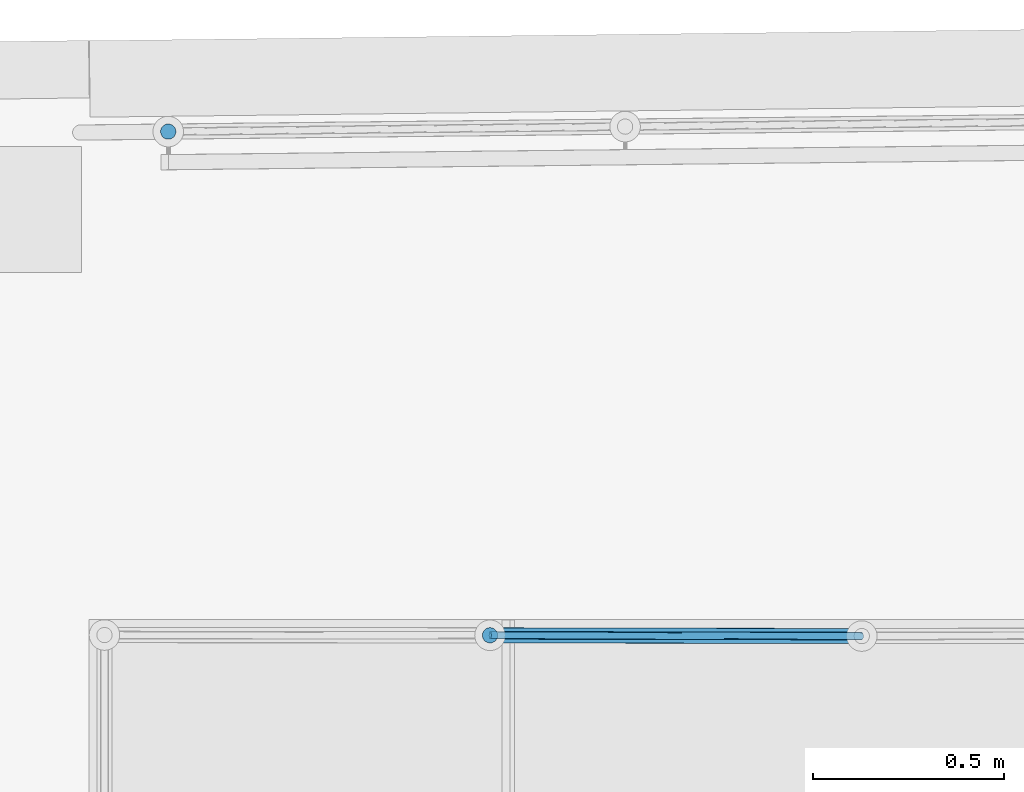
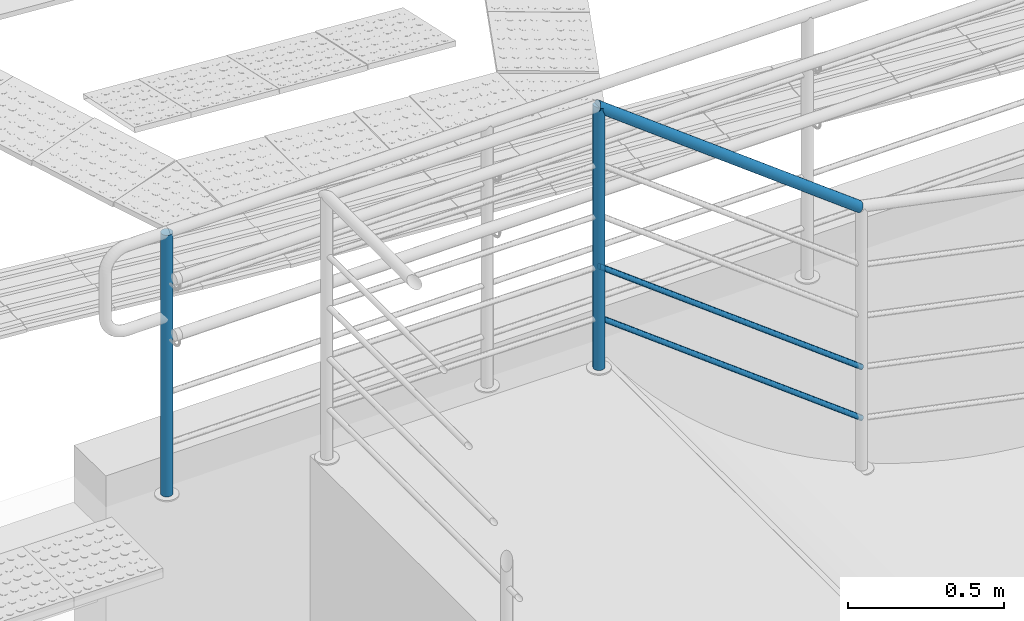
# One storey, part 33 of 237: 6 building element parts, 2 elements without a shape of their own.
"""IFC2X3 building model written with IfcOpenShell, lengths in millimetres."""

import ifcopenshell
import ifcopenshell.guid

model = None  # the IFC model being written
_history = None  # IfcOwnerHistory: only IFC2X3 demands one
_inside = {}  # id of a spatial element -> (the spatial element, [elements in it])
_under = {}  # id of a project, library or spatial element -> (it, [spatial elements below it])
_declared = {}  # id of a project -> (the project, [libraries it declares])
_typed = {}  # id of a type object -> (the type object, [elements of that type])
_made_of = {}  # id of a material, layer set ... -> (it, [elements and type objects made of it])


def new_model(schema):
    """Start an empty IFC model of exactly this schema.

    Asked for "IFC4X3", IfcOpenShell would pick the latest addendum, in which some entities
    have other attributes; the version numbers below select the first issue.
    IFC2X3 requires an IfcOwnerHistory on every rooted entity: one is made here for all.
    """
    global model, _history
    if schema == "IFC4X3":
        model = ifcopenshell.file(schema_version=(4, 3, 0, 0))
    else:
        model = ifcopenshell.file(schema=schema)
    _inside.clear()
    _under.clear()
    _declared.clear()
    _typed.clear()
    _made_of.clear()
    _history = None
    if model.schema == "IFC2X3":
        org = make("IfcOrganization", Name="unknown")
        user = make(
            "IfcPersonAndOrganization",
            ThePerson=make("IfcPerson", FamilyName="unknown"),
            TheOrganization=org,
        )
        app = make(
            "IfcApplication",
            ApplicationDeveloper=org,
            Version="unknown",
            ApplicationFullName="unknown",
            ApplicationIdentifier="unknown",
        )
        _history = make(
            "IfcOwnerHistory",
            OwningUser=user,
            OwningApplication=app,
            ChangeAction="ADDED",
            CreationDate=0,
        )
    return model


def make(cls, **values):
    """One entity of the class cls with the attributes given. An attribute that is None is left unset."""
    return model.create_entity(
        cls, **{name: value for name, value in values.items() if value is not None}
    )


def entity(cls, *values):
    """Any entity or typed value of the class cls, its attributes in the order of the schema. None: left unset."""
    e = model.create_entity(cls)
    for i, value in enumerate(values):
        if value is not None:
            e[i] = value
    return e


def rooted(cls, **values):
    """An entity with a GlobalId (a new one), such as an element, a storey or a relation."""
    return make(cls, GlobalId=ifcopenshell.guid.new(), OwnerHistory=_history, **values)


def si_unit(unit_type, name, prefix=None):
    """IfcSIUnit, for example si_unit("LENGTHUNIT", "METRE", prefix="MILLI")."""
    return make("IfcSIUnit", UnitType=unit_type, Prefix=prefix, Name=name)


def converted_unit(unit_type, name, factor, base, dimensions=None, offset=None):
    """IfcConversionBasedUnit, such as the inch: factor (a typed value) times the base unit."""
    return make(
        "IfcConversionBasedUnit"
        if offset is None
        else "IfcConversionBasedUnitWithOffset",
        ConversionOffset=offset,
        Dimensions=None
        if dimensions is None
        else entity("IfcDimensionalExponents", *dimensions),
        UnitType=unit_type,
        Name=name,
        ConversionFactor=make(
            "IfcMeasureWithUnit", ValueComponent=factor, UnitComponent=base
        ),
    )


def derived_unit(unit_type, elements):
    """IfcDerivedUnit: a product of units, each with its exponent."""
    return make(
        "IfcDerivedUnit",
        Elements=[
            make("IfcDerivedUnitElement", Unit=unit, Exponent=power)
            for unit, power in elements
        ],
        UnitType=unit_type,
    )


def money_unit(currency):
    """IfcMonetaryUnit."""
    return make("IfcMonetaryUnit", Currency=currency)


def assignment(units):
    """IfcUnitAssignment: the units of a project."""
    return None if units is None else make("IfcUnitAssignment", Units=units)


def point(xyz):
    """IfcCartesianPoint."""
    return None if xyz is None else make("IfcCartesianPoint", Coordinates=xyz)


def direction(xyz):
    """IfcDirection."""
    return None if xyz is None else make("IfcDirection", DirectionRatios=xyz)


def frame(location, z_axis=None, x_axis=None):
    """IfcAxis2Placement3D, a coordinate frame: its origin and axes. An axis left out is left unset."""
    return make(
        "IfcAxis2Placement3D",
        Location=point(location),
        Axis=direction(z_axis),
        RefDirection=direction(x_axis),
    )


def origin_with_axes():
    """The frame at (0, 0, 0) with the z axis (0, 0, 1) and the x axis (1, 0, 0) written out."""
    return frame((0.0, 0.0, 0.0), z_axis=(0.0, 0.0, 1.0), x_axis=(1.0, 0.0, 0.0))


def place(relative_to, where):
    """IfcLocalPlacement: puts the frame where relative to a parent placement (None: the world)."""
    return make(
        "IfcLocalPlacement", PlacementRelTo=relative_to, RelativePlacement=where
    )


def context(
    kind, dimensions, precision=None, world=None, true_north=None, identifier=None
):
    """IfcGeometricRepresentationContext, for example the 3D "Model" context."""
    return make(
        "IfcGeometricRepresentationContext",
        ContextIdentifier=identifier,
        ContextType=kind,
        CoordinateSpaceDimension=dimensions,
        Precision=precision,
        WorldCoordinateSystem=world,
        TrueNorth=true_north,
    )


def subcontext(parent, identifier, kind, view, scale=None):
    """IfcGeometricRepresentationSubContext, for example "Body" below "Model"."""
    return make(
        "IfcGeometricRepresentationSubContext",
        ContextIdentifier=identifier,
        ContextType=kind,
        ParentContext=parent,
        TargetScale=scale,
        TargetView=view,
    )


def project(units=None, contexts=None):
    """IfcProject with its units and contexts."""
    return rooted(
        "IfcProject",
        Name="project",
        RepresentationContexts=contexts,
        UnitsInContext=assignment(units),
    )


def spatial(cls, under=None, at=None, **own):
    """A site, building, storey or space (cls), placed at a placement, below another one or the project."""
    s = rooted(cls, ObjectPlacement=at, **own)
    if under is not None:
        _under.setdefault(under.id(), (under, []))[1].append(s)
    return s


def faces_of(points, faces, orient=None, outer=None):
    """IfcFace entities. A face is a list of loops; a loop is a list of indices into points, from 0.

    orient and outer hold one flag for each loop. By default every Orientation is true, the
    first loop of a face is its IfcFaceOuterBound and the others are IfcFaceBound.
    """
    made = []
    for i, loops in enumerate(faces):
        bounds = []
        for j, loop in enumerate(loops):
            is_outer = j == 0 if outer is None else outer[i][j]
            bounds.append(
                make(
                    "IfcFaceOuterBound" if is_outer else "IfcFaceBound",
                    Bound=make("IfcPolyLoop", Polygon=[points[k] for k in loop]),
                    Orientation=True if orient is None else orient[i][j],
                )
            )
        made.append(make("IfcFace", Bounds=bounds))
    return made


def faceted_brep(points, faces, orient=None, outer=None, voids=None):
    """IfcFacetedBrep: a solid bounded by flat faces; with voids (closed shells), ...WithVoids."""
    shared = [point(p) for p in points]
    hull = make("IfcClosedShell", CfsFaces=faces_of(shared, faces, orient, outer))
    if voids is None:
        return make("IfcFacetedBrep", Outer=hull)
    return make(
        "IfcFacetedBrepWithVoids",
        Outer=hull,
        Voids=[
            make(cls, CfsFaces=faces_of(shared, fs, o, b)) for cls, fs, o, b in voids
        ],
    )


def shape(context_of_items, identifier, shape_type, items):
    """IfcShapeRepresentation: the items that make up one representation, for example the "Body"."""
    return make(
        "IfcShapeRepresentation",
        ContextOfItems=context_of_items,
        RepresentationIdentifier=identifier,
        RepresentationType=shape_type,
        Items=items,
    )


def material(Name=None, Category=None):
    """IfcMaterial."""
    return make("IfcMaterial", Name=Name, Category=Category)


def made_of(thing, what):
    """Note that an element or type object is made of a material, layer set ...; save() writes the relation."""
    if what is not None:
        _made_of.setdefault(what.id(), (what, []))[1].append(thing)
    return thing


def type_object(cls, material=None, **own):
    """A type object (cls), such as IfcWallType, which elements share."""
    return made_of(rooted(cls, **own), material)


def element(
    cls,
    number,
    at=None,
    inside=None,
    cuts=None,
    type_object=None,
    material=None,
    context=None,
    identifier="Body",
    shape_type=None,
    held_by="IfcProductDefinitionShape",
    body=None,
    shapes=None,
    **own,
):
    """One element of the class cls, such as IfcWall. Its Tag is "e" and its number.

    at: its placement. inside: the storey or other place that contains it. cuts: it is an
    opening in that element (IfcRelVoidsElement). A single representation is given by context,
    identifier, shape_type and body (its items); several are given by shapes. held_by: the class
    of the entity that holds the representations. save() writes the other relations.
    """
    e = rooted(cls, Tag="e%d" % number, ObjectPlacement=at, **own)
    if body is not None:
        shapes = [shape(context, identifier, shape_type, body)]
    if shapes is not None:
        e.Representation = make(held_by, Representations=shapes)
    if inside is not None:
        _inside.setdefault(inside.id(), (inside, []))[1].append(e)
    if cuts is not None:
        rooted(
            "IfcRelVoidsElement", RelatingBuildingElement=cuts, RelatedOpeningElement=e
        )
    if type_object is not None:
        _typed.setdefault(type_object.id(), (type_object, []))[1].append(e)
    return made_of(e, material)


def aggregate(whole, parts):
    """IfcRelAggregates: a whole, such as a stair, and the parts it consists of."""
    return rooted("IfcRelAggregates", RelatingObject=whole, RelatedObjects=parts)


def save(model, path):
    """Write the relations noted so far, then the file.

    IfcRelAggregates (storeys below a building ...), IfcRelContainedInSpatialStructure (elements
    in a storey), IfcRelDefinesByType, IfcRelAssociatesMaterial and IfcRelDeclares: one each for
    every whole, place, type object, material and project.
    """
    for whole, parts in _under.values():
        aggregate(whole, parts)
    for where, things in _inside.values():
        rooted(
            "IfcRelContainedInSpatialStructure",
            RelatedElements=things,
            RelatingStructure=where,
        )
    for kind, things in _typed.values():
        rooted("IfcRelDefinesByType", RelatedObjects=things, RelatingType=kind)
    for what, things in _made_of.values():
        rooted("IfcRelAssociatesMaterial", RelatedObjects=things, RelatingMaterial=what)
    for by, libraries in _declared.values():
        rooted("IfcRelDeclares", RelatingContext=by, RelatedDefinitions=libraries)
    model.write(path)


model = new_model("IFC2X3")

# Units and contexts
model_context = context("Model", 3, precision=0.01, world=origin_with_axes(), true_north=direction((0.0, 1.0)))
body_context = subcontext(model_context, "Body", "Model", "MODEL_VIEW")
ifc_project = project(units=[si_unit("LENGTHUNIT", "METRE", prefix="MILLI"), si_unit("AREAUNIT", "SQUARE_METRE"), si_unit("VOLUMEUNIT", "CUBIC_METRE"), converted_unit("PLANEANGLEUNIT", "DEGREE", entity("IfcPlaneAngleMeasure", 0.0174532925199), si_unit("PLANEANGLEUNIT", "RADIAN"), dimensions=[0, 0, 0, 0, 0, 0, 0]), money_unit("USD"), converted_unit("TIMEUNIT", "Year", entity("IfcTimeMeasure", 31556926.0), si_unit("TIMEUNIT", "SECOND"), dimensions=[0, 0, 1, 0, 0, 0, 0]), si_unit("MASSUNIT", "GRAM", prefix="KILO"), si_unit("THERMODYNAMICTEMPERATUREUNIT", "DEGREE_CELSIUS"), si_unit("LUMINOUSINTENSITYUNIT", "LUMEN"), si_unit("ENERGYUNIT", "JOULE", prefix="MEGA"), derived_unit("THERMALCONDUCTANCEUNIT", [(si_unit("POWERUNIT", "WATT"), 1), (si_unit("LENGTHUNIT", "METRE"), -1), (si_unit("THERMODYNAMICTEMPERATUREUNIT", "KELVIN"), -1)]), derived_unit("SPECIFICHEATCAPACITYUNIT", [(si_unit("ENERGYUNIT", "JOULE"), 1), (si_unit("MASSUNIT", "GRAM", prefix="KILO"), -1), (si_unit("THERMODYNAMICTEMPERATUREUNIT", "KELVIN"), -1)]), derived_unit("MASSDENSITYUNIT", [(si_unit("MASSUNIT", "GRAM", prefix="KILO"), 1), (si_unit("VOLUMEUNIT", "CUBIC_METRE"), -1)])], contexts=[model_context])

# Site, building, storey
site_placement = place(None, origin_with_axes())
site = spatial("IfcSite", under=ifc_project, at=site_placement, Name="Local", CompositionType="ELEMENT")
building_placement = place(site_placement, origin_with_axes())
building = spatial("IfcBuilding", under=site, at=building_placement, Name="Construção", CompositionType="ELEMENT")
storey_placement = place(building_placement, origin_with_axes())
storey = spatial("IfcBuildingStorey", under=building, at=storey_placement, Name="Pavimento Térreo", CompositionType="ELEMENT", Elevation=0.0)

# Railing, building element part
railing_type = type_object("IfcRailingType", Name="Tipo de Guarda-Corpo", PredefinedType="NOTDEFINED")
railing_1_placement = place(storey_placement, frame((70326.6870103, 28675.2458388, -1357.10819655), z_axis=(0.0, 0.0, 1.0), x_axis=(1.0, 0.0, 0.0)))
railing_1 = element("IfcRailing", 1, at=railing_1_placement, inside=storey, type_object=railing_type, Name="Guarda-Corpo - 004", PredefinedType="NOTDEFINED")
ifc_material = material(Name="Aço - Inoxidável")
building_element_part_1_placement = place(railing_1_placement, origin_with_axes())
building_element_part_1 = element("IfcBuildingElementPart", 2, at=building_element_part_1_placement, material=ifc_material, Name="Aço - Inoxidável", context=body_context, shape_type="Brep", body=[
    faceted_brep([(-19054.2663935, 6515.8113594, 5.0), (-19057.7424563, 6516.0774143, 5.0), (-19057.7424563, 6516.0774143, 1030.0), (-19054.2663935, 6515.8113594, 1030.0), (-19061.2119098, 6515.73581526, 5.0), (-19050.8893399, 6514.94573451, 5.0), (-19047.7139055, 6513.50684119, 5.0), (-19044.8365743, 6511.53839951, 5.0), (-19042.3447725, 6509.10021955, 5.0), (-19040.3142123, 6506.26638419, 5.0), (-19038.8065913, 6503.12299807, 5.0), (-19037.8677176, 6499.76557141, 5.0), (-19037.5261186, 6496.29611789, 5.0), (-19037.7921735, 6492.82005512, 5.0), (-19038.6577984, 6489.4430015, 5.0), (-19040.0966917, 6486.2675671, 5.0), (-19042.0651334, 6483.39023589, 5.0), (-19044.5033133, 6480.89843412, 5.0), (-19047.3371487, 6478.86787391, 5.0), (-19050.4805348, 6477.36025283, 5.0), (-19053.8379615, 6476.42137917, 5.0), (-19057.307415, 6476.07978013, 5.0), (-19060.7834777, 6476.34583503, 5.0), (-19064.1605314, 6477.21145993, 5.0), (-19067.3359658, 6478.65035324, 5.0), (-19070.213297, 6480.61879493, 5.0), (-19072.7050987, 6483.05697488, 5.0), (-19074.7356589, 6485.89081025, 5.0), (-19076.24328, 6489.03419636, 5.0), (-19077.1821537, 6492.39162303, 5.0), (-19077.5237527, 6495.86107654, 5.0), (-19077.2576978, 6499.33713931, 5.0), (-19076.3920729, 6502.71419293, 5.0), (-19074.9531796, 6505.88962733, 5.0), (-19072.9847379, 6508.76695854, 5.0), (-19070.546558, 6511.25876032, 5.0), (-19067.7127226, 6513.28932052, 5.0), (-19064.5693365, 6514.7969416, 5.0), (-19061.2119098, 6515.73581526, 1030.0), (-19037.7921735, 6492.82005512, 1030.0), (-19037.5261186, 6496.29611789, 1030.0), (-19037.8677176, 6499.76557141, 1030.0), (-19038.8065913, 6503.12299807, 1030.0), (-19040.3142123, 6506.26638419, 1030.0), (-19042.3447725, 6509.10021955, 1030.0), (-19044.8365743, 6511.53839951, 1030.0), (-19047.7139055, 6513.50684119, 1030.0), (-19050.8893399, 6514.94573451, 1030.0), (-19064.5693365, 6514.7969416, 1030.0), (-19067.7127226, 6513.28932052, 1030.0), (-19070.546558, 6511.25876032, 1030.0), (-19072.9847379, 6508.76695854, 1030.0), (-19074.9531796, 6505.88962733, 1030.0), (-19076.3920729, 6502.71419293, 1030.0), (-19077.2576978, 6499.33713931, 1030.0), (-19077.5237527, 6495.86107654, 1030.0), (-19077.1821537, 6492.39162303, 1030.0), (-19076.24328, 6489.03419636, 1030.0), (-19074.7356589, 6485.89081025, 1030.0), (-19072.7050987, 6483.05697488, 1030.0), (-19070.213297, 6480.61879493, 1030.0), (-19067.3359658, 6478.65035324, 1030.0), (-19064.1605314, 6477.21145993, 1030.0), (-19060.7834777, 6476.34583503, 1030.0), (-19057.307415, 6476.07978013, 1030.0), (-19053.8379615, 6476.42137917, 1030.0), (-19050.4805348, 6477.36025283, 1030.0), (-19047.3371487, 6478.86787391, 1030.0), (-19044.5033133, 6480.89843412, 1030.0), (-19042.0651334, 6483.39023589, 1030.0), (-19040.0966917, 6486.2675671, 1030.0), (-19038.6577984, 6489.4430015, 1030.0)], [[[0, 1, 2, 3]], [[4, 1, 0, 5, 6, 7, 8, 9, 10, 11, 12, 13, 14, 15, 16, 17, 18, 19, 20, 21, 22, 23, 24, 25, 26, 27, 28, 29, 30, 31, 32, 33, 34, 35, 36, 37]], [[1, 4, 38, 2]], [[39, 40, 41, 42, 43, 44, 45, 46, 47, 3, 2, 38, 48, 49, 50, 51, 52, 53, 54, 55, 56, 57, 58, 59, 60, 61, 62, 63, 64, 65, 66, 67, 68, 69, 70, 71]], [[5, 0, 3, 47]], [[6, 5, 47, 46]], [[7, 6, 46, 45]], [[8, 7, 45, 44]], [[9, 8, 44, 43]], [[10, 9, 43, 42]], [[11, 10, 42, 41]], [[12, 11, 41, 40]], [[13, 12, 40, 39]], [[14, 13, 39, 71]], [[15, 14, 71, 70]], [[16, 15, 70, 69]], [[17, 16, 69, 68]], [[18, 17, 68, 67]], [[19, 18, 67, 66]], [[20, 19, 66, 65]], [[21, 20, 65, 64]], [[22, 21, 64, 63]], [[23, 22, 63, 62]], [[24, 23, 62, 61]], [[25, 24, 61, 60]], [[26, 25, 60, 59]], [[27, 26, 59, 58]], [[28, 27, 58, 57]], [[29, 28, 57, 56]], [[30, 29, 56, 55]], [[31, 30, 55, 54]], [[32, 31, 54, 53]], [[33, 32, 53, 52]], [[34, 33, 52, 51]], [[35, 34, 51, 50]], [[36, 35, 50, 49]], [[37, 36, 49, 48]], [[4, 37, 48, 38]]]),
])
aggregate(railing_1, [building_element_part_1])

# Railing, building element parts
railing_2_placement = place(storey_placement, frame((53912.4440926, 33356.4497128, -1263.04952679), z_axis=(0.0, 0.0, 1.0), x_axis=(1.0, 0.0, 0.0)))
railing_2 = element("IfcRailing", 3, at=railing_2_placement, inside=storey, type_object=railing_type, Name="Guarda-Corpo - 001", PredefinedType="NOTDEFINED")
building_element_part_2_placement = place(railing_2_placement, origin_with_axes())
building_element_part_2 = element("IfcBuildingElementPart", 4, at=building_element_part_2_placement, material=ifc_material, Name="Aço - Inoxidável", context=body_context, shape_type="Brep", body=[
    faceted_brep([(-1798.31331541, 517.412051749, 910.93185737), (-1801.78566943, 517.722785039, 910.93185737), (-1801.78566943, 517.722785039, 1935.93185737), (-1798.31331541, 517.412051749, 1934.76826595), (-1805.25922885, 517.425829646, 910.93185737), (-1794.94767252, 516.503071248, 910.93185737), (-1791.79100412, 515.02346245, 910.93185737), (-1788.93922398, 513.018182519, 910.93185737), (-1786.47898199, 510.54816087, 910.93185737), (-1784.48503136, 507.688447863, 910.93185737), (-1783.01795728, 504.525934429, 910.93185737), (-1782.12233604, 501.156711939, 910.93185737), (-1781.82538065, 497.683152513, 910.93185737), (-1782.13611394, 494.210798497, 910.93185737), (-1783.04509444, 490.84515561, 910.93185737), (-1784.52470323, 487.688487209, 910.93185737), (-1786.52998317, 484.836707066, 910.93185737), (-1789.00000481, 482.376465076, 910.93185737), (-1791.85971782, 480.382514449, 910.93185737), (-1795.02223126, 478.915440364, 910.93185737), (-1798.39145375, 478.019819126, 910.93185737), (-1801.86501317, 477.722863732, 910.93185737), (-1805.33736719, 478.033597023, 910.93185737), (-1808.70301007, 478.942577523, 910.93185737), (-1811.85967847, 480.422186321, 910.93185737), (-1814.71145862, 482.427466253, 910.93185737), (-1817.17170061, 484.897487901, 910.93185737), (-1819.16565124, 487.757200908, 910.93185737), (-1820.63272532, 490.919714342, 910.93185737), (-1821.52834656, 494.288936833, 910.93185737), (-1821.82530195, 497.762496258, 910.93185737), (-1821.51456866, 501.234850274, 910.93185737), (-1820.60558816, 504.600493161, 910.93185737), (-1819.12597936, 507.757161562, 910.93185737), (-1817.12069943, 510.608941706, 910.93185737), (-1814.65067778, 513.069183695, 910.93185737), (-1811.79096478, 515.063134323, 910.93185737), (-1808.62845134, 516.530208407, 910.93185737), (-1805.25922885, 517.425829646, 1937.09544879), (-1782.13611394, 494.210798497, 1929.33280252), (-1781.82538065, 497.683152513, 1929.23100146), (-1782.12233604, 501.156711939, 1929.33280252), (-1783.01795728, 504.525934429, 1929.63511252), (-1784.48503136, 507.688447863, 1930.12874593), (-1786.47898199, 510.54816087, 1930.79870394), (-1788.93922398, 513.018182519, 1931.62463022), (-1791.79100412, 515.02346245, 1932.58142942), (-1794.94767252, 516.503071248, 1933.64002967), (-1808.62845134, 516.530208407, 1938.22368507), (-1811.79096478, 515.063134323, 1939.28228532), (-1814.65067778, 513.069183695, 1940.23908452), (-1817.12069943, 510.608941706, 1941.0650108), (-1819.12597936, 507.757161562, 1941.73496881), (-1820.60558816, 504.600493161, 1942.22860222), (-1821.51456866, 501.234850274, 1942.53091222), (-1821.82530195, 497.762496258, 1942.63271328), (-1821.52834656, 494.288936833, 1942.53091222), (-1820.63272532, 490.919714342, 1942.22860222), (-1819.16565124, 487.757200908, 1941.73496881), (-1817.17170061, 484.897487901, 1941.0650108), (-1814.71145862, 482.427466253, 1940.23908452), (-1811.85967847, 480.422186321, 1939.28228532), (-1808.70301007, 478.942577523, 1938.22368507), (-1805.33736719, 478.033597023, 1937.09544879), (-1801.86501317, 477.722863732, 1935.93185737), (-1798.39145375, 478.019819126, 1934.76826595), (-1795.02223126, 478.915440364, 1933.64002967), (-1791.85971782, 480.382514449, 1932.58142942), (-1789.00000481, 482.376465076, 1931.62463022), (-1786.52998317, 484.836707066, 1930.79870394), (-1784.52470323, 487.688487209, 1930.12874593), (-1783.04509444, 490.84515561, 1929.63511252)], [[[0, 1, 2, 3]], [[4, 1, 0, 5, 6, 7, 8, 9, 10, 11, 12, 13, 14, 15, 16, 17, 18, 19, 20, 21, 22, 23, 24, 25, 26, 27, 28, 29, 30, 31, 32, 33, 34, 35, 36, 37]], [[1, 4, 38, 2]], [[39, 40, 41, 42, 43, 44, 45, 46, 47, 3, 2, 38, 48, 49, 50, 51, 52, 53, 54, 55, 56, 57, 58, 59, 60, 61, 62, 63, 64, 65, 66, 67, 68, 69, 70, 71]], [[5, 0, 3, 47]], [[6, 5, 47, 46]], [[7, 6, 46, 45]], [[8, 7, 45, 44]], [[9, 8, 44, 43]], [[10, 9, 43, 42]], [[11, 10, 42, 41]], [[12, 11, 41, 40]], [[13, 12, 40, 39]], [[14, 13, 39, 71]], [[15, 14, 71, 70]], [[16, 15, 70, 69]], [[17, 16, 69, 68]], [[18, 17, 68, 67]], [[19, 18, 67, 66]], [[20, 19, 66, 65]], [[21, 20, 65, 64]], [[22, 21, 64, 63]], [[23, 22, 63, 62]], [[24, 23, 62, 61]], [[25, 24, 61, 60]], [[26, 25, 60, 59]], [[27, 26, 59, 58]], [[28, 27, 58, 57]], [[29, 28, 57, 56]], [[30, 29, 56, 55]], [[31, 30, 55, 54]], [[32, 31, 54, 53]], [[33, 32, 53, 52]], [[34, 33, 52, 51]], [[35, 34, 51, 50]], [[36, 35, 50, 49]], [[37, 36, 49, 48]], [[4, 37, 48, 38]]]),
])
building_element_part_3_placement = place(railing_2_placement, origin_with_axes())
building_element_part_3 = element("IfcBuildingElementPart", 5, at=building_element_part_3_placement, material=ifc_material, Name="Aço - Inoxidável", context=body_context, shape_type="Brep", body=[
    faceted_brep([(-838.139234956, 475.794039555, 1203.45755523), (-836.669634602, 476.097955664, 1206.69952781), (-1807.38792478, 478.033801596, 1939.39534834), (-839.608864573, 476.097814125, 1200.21558264), (-841.033869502, 477.000049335, 1197.07211574), (-842.370951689, 478.473331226, 1194.1226672), (-843.579484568, 480.472894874, 1191.4568545), (-844.622747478, 482.937984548, 1189.15567703), (-845.469041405, 485.793699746, 1187.28905488), (-846.092652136, 488.953271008, 1185.91370444), (-846.474631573, 492.320696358, 1185.07141502), (-846.603373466, 495.793658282, 1184.78777917), (-846.474966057, 499.26663259, 1185.07141502), (-846.09331094, 502.634094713, 1185.91370444), (-845.470004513, 505.79372602, 1187.28905488), (-844.623985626, 508.649522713, 1189.15567703), (-843.580960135, 511.114712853, 1191.4568545), (-842.372619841, 513.114392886, 1194.1226672), (-841.035679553, 514.587803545, 1197.07211574), (-839.610761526, 515.490175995, 1200.21558264), (-838.141161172, 515.794092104, 1203.45755523), (-836.671531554, 515.490317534, 1206.69952781), (-835.246526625, 514.588082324, 1209.84299471), (-833.909444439, 513.114800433, 1212.79244325), (-832.70091156, 511.115236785, 1215.45825595), (-831.657648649, 508.650147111, 1217.75943342), (-830.811354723, 505.794431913, 1219.62605557), (-830.187743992, 502.634860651, 1221.00140601), (-829.805764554, 499.267435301, 1221.84369543), (-829.677022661, 495.794473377, 1222.12733128), (-829.80543007, 492.321499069, 1221.84369543), (-830.187085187, 488.954036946, 1221.00140601), (-830.810391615, 485.794405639, 1219.62605557), (-831.656410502, 482.938608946, 1217.75943342), (-832.699435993, 480.473418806, 1215.45825595), (-833.907776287, 478.473738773, 1212.79244325), (-835.244716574, 477.000328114, 1209.84299471), (-1806.25852918, 478.934653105, 1942.7627876), (-1808.55190608, 477.731452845, 1935.92238485), (-1809.7151061, 478.036793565, 1932.44942136), (-1810.8421816, 478.940546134, 1929.0819821), (-1811.89888694, 480.415250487, 1925.92238502), (-1812.85311468, 482.416098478, 1923.06663288), (-1813.6758711, 484.882295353, 1920.60149625), (-1814.34215714, 487.738906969, 1918.60187708), (-1814.83172805, 490.899136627, 1917.12853276), (-1815.12970847, 494.266962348, 1916.22623013), (-1815.22704441, 497.740054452, 1915.9223852), (-1815.12077836, 501.212884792, 1916.22623013), (-1814.81413917, 504.579933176, 1917.12853276), (-1814.31644391, 507.738893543, 1918.60187708), (-1813.6428148, 510.59378248, 1920.60149625), (-1812.81371973, 513.057855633, 1923.06663288), (-1811.85435032, 515.056243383, 1925.92238502), (-1810.79385653, 516.528225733, 1929.0819821), (-1809.66446092, 517.429077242, 1932.44942136), (-1808.50047962, 517.731425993, 1935.92238485), (-1807.3372796, 517.426085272, 1939.39534834), (-1806.21020411, 516.522332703, 1942.7627876), (-1805.15349876, 515.047628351, 1945.92238468), (-1804.19927102, 513.04678036, 1948.77813682), (-1803.37651461, 510.580583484, 1951.24327344), (-1802.71022856, 507.723971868, 1953.24289262), (-1802.22065765, 504.56374221, 1954.71623694), (-1801.92267723, 501.195916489, 1955.61853957), (-1801.8253413, 497.722824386, 1955.9223845), (-1801.93160734, 494.249994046, 1955.61853957), (-1802.23824654, 490.882945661, 1954.71623694), (-1802.73594179, 487.723985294, 1953.24289262), (-1803.4095709, 484.869096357, 1951.24327344), (-1804.23866598, 482.405023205, 1948.77813682), (-1805.19803539, 480.406635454, 1945.92238468)], [[[0, 1, 2]], [[0, 3, 4, 5, 6, 7, 8, 9, 10, 11, 12, 13, 14, 15, 16, 17, 18, 19, 20, 21, 22, 23, 24, 25, 26, 27, 28, 29, 30, 31, 32, 33, 34, 35, 36, 1]], [[1, 37, 2]], [[0, 2, 38]], [[3, 0, 38]], [[4, 3, 39]], [[5, 4, 40]], [[6, 5, 41]], [[7, 6, 42]], [[8, 7, 43]], [[9, 8, 44]], [[10, 9, 45]], [[11, 10, 46]], [[12, 11, 47]], [[13, 12, 48]], [[14, 13, 49]], [[15, 14, 50]], [[16, 15, 51]], [[17, 16, 52]], [[18, 17, 53]], [[19, 18, 54]], [[20, 19, 55]], [[21, 20, 56]], [[22, 21, 57]], [[23, 22, 58]], [[24, 23, 59]], [[25, 24, 60]], [[26, 25, 61]], [[27, 26, 62]], [[28, 27, 63]], [[29, 28, 64]], [[30, 29, 65]], [[31, 30, 66]], [[32, 31, 67]], [[33, 32, 68]], [[34, 33, 69]], [[35, 34, 70]], [[36, 35, 71]], [[1, 36, 37]], [[38, 2, 37, 71, 70, 69, 68, 67, 66, 65, 64, 63, 62, 61, 60, 59, 58, 57, 56, 55, 54, 53, 52, 51, 50, 49, 48, 47, 46, 45, 44, 43, 42, 41, 40, 39]], [[3, 38, 39]], [[4, 39, 40]], [[5, 40, 41]], [[6, 41, 42]], [[7, 42, 43]], [[8, 43, 44]], [[9, 44, 45]], [[10, 45, 46]], [[11, 46, 47]], [[12, 47, 48]], [[13, 48, 49]], [[14, 49, 50]], [[15, 50, 51]], [[16, 51, 52]], [[17, 52, 53]], [[18, 53, 54]], [[19, 54, 55]], [[20, 55, 56]], [[21, 56, 57]], [[22, 57, 58]], [[23, 58, 59]], [[24, 59, 60]], [[25, 60, 61]], [[26, 61, 62]], [[27, 62, 63]], [[28, 63, 64]], [[29, 64, 65]], [[30, 65, 66]], [[31, 66, 67]], [[32, 67, 68]], [[33, 68, 69]], [[34, 69, 70]], [[35, 70, 71]], [[36, 71, 37]]]),
])
building_element_part_4_placement = place(railing_2_placement, origin_with_axes())
building_element_part_4 = element("IfcBuildingElementPart", 6, at=building_element_part_4_placement, material=ifc_material, Name="Aço - Inoxidável", context=body_context, shape_type="Brep", body=[
    faceted_brep([(-829.676541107, 485.79446024, 372.127331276), (-828.94174093, 485.946418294, 373.748317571), (-1801.25620726, 487.874005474, 1107.65886625), (-830.411355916, 485.946347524, 370.506344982), (-831.123858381, 486.397465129, 368.934611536), (-831.792399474, 487.134106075, 367.459887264), (-832.396665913, 488.133887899, 366.126980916), (-832.918297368, 489.366432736, 364.976392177), (-833.341444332, 490.794290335, 364.043081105), (-833.653249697, 492.374075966, 363.355405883), (-833.844239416, 494.057788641, 362.934261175), (-833.908610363, 495.794269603, 362.792443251), (-833.844406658, 497.530756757, 362.934261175), (-833.6535791, 499.214487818, 363.355405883), (-833.341925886, 500.794303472, 364.043081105), (-832.918916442, 502.222201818, 364.976392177), (-832.397403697, 503.454796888, 366.126980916), (-831.79323355, 504.454636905, 367.459887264), (-831.124763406, 505.191342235, 368.934611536), (-830.412304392, 505.642528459, 370.506344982), (-829.677504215, 505.794486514, 372.127331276), (-828.942689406, 505.642599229, 373.748317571), (-828.230186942, 505.191481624, 375.320051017), (-827.561645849, 504.454840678, 376.794775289), (-826.957379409, 503.455058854, 378.127681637), (-826.435747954, 502.222514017, 379.278270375), (-826.012600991, 500.794656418, 380.211581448), (-825.700795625, 499.214870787, 380.89925667), (-825.509805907, 497.531158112, 381.320401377), (-825.44543496, 495.79467715, 381.462219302), (-825.509638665, 494.058189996, 381.320401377), (-825.700466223, 492.374458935, 380.89925667), (-826.012119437, 490.794643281, 380.211581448), (-826.43512888, 489.366744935, 379.278270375), (-826.956641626, 488.134149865, 378.127681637), (-827.560811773, 487.134309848, 376.794775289), (-828.229281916, 486.397604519, 375.320051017), (-1800.69150946, 488.324431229, 1109.34258587), (-1801.83819791, 487.722831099, 1105.9223845), (-1802.41979792, 487.875501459, 1104.18590275), (-1802.98333567, 488.327377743, 1102.50218313), (-1803.51168834, 489.06472992, 1100.92238459), (-1803.98880221, 490.065153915, 1099.49450852), (-1804.40018042, 491.298252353, 1098.2619402), (-1804.73332344, 492.726558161, 1097.26213061), (-1804.9781089, 494.30667299, 1096.52545846), (-1805.12709911, 495.99058585, 1096.07430714), (-1805.17576707, 497.727131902, 1095.92238468), (-1805.12263405, 499.463547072, 1096.07430714), (-1804.96931445, 501.147071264, 1096.52545846), (-1804.72046683, 502.726551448, 1097.26213061), (-1804.38365227, 504.153995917, 1098.2619402), (-1803.96910473, 505.386032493, 1099.49450852), (-1803.48942003, 506.385226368, 1100.92238459), (-1802.95917313, 507.121217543, 1102.50218313), (-1802.39447533, 507.571643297, 1104.18590275), (-1801.81248468, 507.722817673, 1105.9223845), (-1801.23088467, 507.570147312, 1107.65886625), (-1800.66734692, 507.118271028, 1109.34258587), (-1800.13899425, 506.380918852, 1110.92238441), (-1799.66188038, 505.380494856, 1112.35026049), (-1799.25050217, 504.147396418, 1113.5828288), (-1798.91735915, 502.71909061, 1114.58263839), (-1798.67257369, 501.138975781, 1115.31931055), (-1798.52358349, 499.455062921, 1115.77046186), (-1798.47491552, 497.718516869, 1115.92238433), (-1798.52804854, 495.982101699, 1115.77046186), (-1798.68136814, 494.298577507, 1115.31931055), (-1798.93021577, 492.719097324, 1114.58263839), (-1799.26703032, 491.291652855, 1113.5828288), (-1799.68157786, 490.059616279, 1112.35026049), (-1800.16126256, 489.060422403, 1110.92238441)], [[[0, 1, 2]], [[0, 3, 4, 5, 6, 7, 8, 9, 10, 11, 12, 13, 14, 15, 16, 17, 18, 19, 20, 21, 22, 23, 24, 25, 26, 27, 28, 29, 30, 31, 32, 33, 34, 35, 36, 1]], [[1, 37, 2]], [[0, 2, 38]], [[3, 0, 38]], [[4, 3, 39]], [[5, 4, 40]], [[6, 5, 41]], [[7, 6, 42]], [[8, 7, 43]], [[9, 8, 44]], [[10, 9, 45]], [[11, 10, 46]], [[12, 11, 47]], [[13, 12, 48]], [[14, 13, 49]], [[15, 14, 50]], [[16, 15, 51]], [[17, 16, 52]], [[18, 17, 53]], [[19, 18, 54]], [[20, 19, 55]], [[21, 20, 56]], [[22, 21, 57]], [[23, 22, 58]], [[24, 23, 59]], [[25, 24, 60]], [[26, 25, 61]], [[27, 26, 62]], [[28, 27, 63]], [[29, 28, 64]], [[30, 29, 65]], [[31, 30, 66]], [[32, 31, 67]], [[33, 32, 68]], [[34, 33, 69]], [[35, 34, 70]], [[36, 35, 71]], [[1, 36, 37]], [[38, 2, 37, 71, 70, 69, 68, 67, 66, 65, 64, 63, 62, 61, 60, 59, 58, 57, 56, 55, 54, 53, 52, 51, 50, 49, 48, 47, 46, 45, 44, 43, 42, 41, 40, 39]], [[3, 38, 39]], [[4, 39, 40]], [[5, 40, 41]], [[6, 41, 42]], [[7, 42, 43]], [[8, 43, 44]], [[9, 44, 45]], [[10, 45, 46]], [[11, 46, 47]], [[12, 47, 48]], [[13, 48, 49]], [[14, 49, 50]], [[15, 50, 51]], [[16, 51, 52]], [[17, 52, 53]], [[18, 53, 54]], [[19, 54, 55]], [[20, 55, 56]], [[21, 56, 57]], [[22, 57, 58]], [[23, 58, 59]], [[24, 59, 60]], [[25, 60, 61]], [[26, 61, 62]], [[27, 62, 63]], [[28, 63, 64]], [[29, 64, 65]], [[30, 65, 66]], [[31, 66, 67]], [[32, 67, 68]], [[33, 68, 69]], [[34, 69, 70]], [[35, 70, 71]], [[36, 71, 37]]]),
])
building_element_part_5_placement = place(railing_2_placement, origin_with_axes())
building_element_part_5 = element("IfcBuildingElementPart", 7, at=building_element_part_5_placement, material=ifc_material, Name="Aço - Inoxidável", context=body_context, shape_type="Brep", body=[
    faceted_brep([(-829.676541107, 485.79446024, 572.127331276), (-828.94174093, 485.946418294, 573.748317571), (-1801.25620726, 487.874005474, 1307.65886625), (-830.411355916, 485.946347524, 570.506344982), (-831.123858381, 486.397465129, 568.934611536), (-831.792399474, 487.134106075, 567.459887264), (-832.396665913, 488.133887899, 566.126980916), (-832.918297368, 489.366432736, 564.976392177), (-833.341444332, 490.794290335, 564.043081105), (-833.653249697, 492.374075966, 563.355405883), (-833.844239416, 494.057788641, 562.934261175), (-833.908610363, 495.794269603, 562.792443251), (-833.844406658, 497.530756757, 562.934261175), (-833.6535791, 499.214487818, 563.355405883), (-833.341925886, 500.794303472, 564.043081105), (-832.918916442, 502.222201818, 564.976392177), (-832.397403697, 503.454796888, 566.126980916), (-831.79323355, 504.454636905, 567.459887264), (-831.124763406, 505.191342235, 568.934611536), (-830.412304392, 505.642528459, 570.506344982), (-829.677504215, 505.794486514, 572.127331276), (-828.942689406, 505.642599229, 573.748317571), (-828.230186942, 505.191481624, 575.320051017), (-827.561645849, 504.454840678, 576.794775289), (-826.957379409, 503.455058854, 578.127681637), (-826.435747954, 502.222514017, 579.278270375), (-826.012600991, 500.794656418, 580.211581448), (-825.700795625, 499.214870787, 580.89925667), (-825.509805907, 497.531158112, 581.320401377), (-825.44543496, 495.79467715, 581.462219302), (-825.509638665, 494.058189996, 581.320401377), (-825.700466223, 492.374458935, 580.89925667), (-826.012119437, 490.794643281, 580.211581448), (-826.43512888, 489.366744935, 579.278270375), (-826.956641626, 488.134149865, 578.127681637), (-827.560811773, 487.134309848, 576.794775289), (-828.229281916, 486.397604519, 575.320051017), (-1800.69150946, 488.324431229, 1309.34258587), (-1801.83819791, 487.722831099, 1305.9223845), (-1802.41979792, 487.875501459, 1304.18590275), (-1802.98333567, 488.327377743, 1302.50218313), (-1803.51168834, 489.06472992, 1300.92238459), (-1803.98880221, 490.065153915, 1299.49450852), (-1804.40018042, 491.298252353, 1298.2619402), (-1804.73332344, 492.726558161, 1297.26213061), (-1804.9781089, 494.30667299, 1296.52545846), (-1805.12709911, 495.99058585, 1296.07430714), (-1805.17576707, 497.727131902, 1295.92238468), (-1805.12263405, 499.463547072, 1296.07430714), (-1804.96931445, 501.147071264, 1296.52545846), (-1804.72046683, 502.726551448, 1297.26213061), (-1804.38365227, 504.153995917, 1298.2619402), (-1803.96910473, 505.386032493, 1299.49450852), (-1803.48942003, 506.385226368, 1300.92238459), (-1802.95917313, 507.121217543, 1302.50218313), (-1802.39447533, 507.571643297, 1304.18590275), (-1801.81248468, 507.722817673, 1305.9223845), (-1801.23088467, 507.570147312, 1307.65886625), (-1800.66734692, 507.118271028, 1309.34258587), (-1800.13899425, 506.380918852, 1310.92238441), (-1799.66188038, 505.380494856, 1312.35026049), (-1799.25050217, 504.147396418, 1313.5828288), (-1798.91735915, 502.71909061, 1314.58263839), (-1798.67257369, 501.138975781, 1315.31931055), (-1798.52358349, 499.455062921, 1315.77046186), (-1798.47491552, 497.718516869, 1315.92238433), (-1798.52804854, 495.982101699, 1315.77046186), (-1798.68136814, 494.298577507, 1315.31931055), (-1798.93021577, 492.719097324, 1314.58263839), (-1799.26703032, 491.291652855, 1313.5828288), (-1799.68157786, 490.059616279, 1312.35026049), (-1800.16126256, 489.060422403, 1310.92238441)], [[[0, 1, 2]], [[0, 3, 4, 5, 6, 7, 8, 9, 10, 11, 12, 13, 14, 15, 16, 17, 18, 19, 20, 21, 22, 23, 24, 25, 26, 27, 28, 29, 30, 31, 32, 33, 34, 35, 36, 1]], [[1, 37, 2]], [[0, 2, 38]], [[3, 0, 38]], [[4, 3, 39]], [[5, 4, 40]], [[6, 5, 41]], [[7, 6, 42]], [[8, 7, 43]], [[9, 8, 44]], [[10, 9, 45]], [[11, 10, 46]], [[12, 11, 47]], [[13, 12, 48]], [[14, 13, 49]], [[15, 14, 50]], [[16, 15, 51]], [[17, 16, 52]], [[18, 17, 53]], [[19, 18, 54]], [[20, 19, 55]], [[21, 20, 56]], [[22, 21, 57]], [[23, 22, 58]], [[24, 23, 59]], [[25, 24, 60]], [[26, 25, 61]], [[27, 26, 62]], [[28, 27, 63]], [[29, 28, 64]], [[30, 29, 65]], [[31, 30, 66]], [[32, 31, 67]], [[33, 32, 68]], [[34, 33, 69]], [[35, 34, 70]], [[36, 35, 71]], [[1, 36, 37]], [[38, 2, 37, 71, 70, 69, 68, 67, 66, 65, 64, 63, 62, 61, 60, 59, 58, 57, 56, 55, 54, 53, 52, 51, 50, 49, 48, 47, 46, 45, 44, 43, 42, 41, 40, 39]], [[3, 38, 39]], [[4, 39, 40]], [[5, 40, 41]], [[6, 41, 42]], [[7, 42, 43]], [[8, 43, 44]], [[9, 44, 45]], [[10, 45, 46]], [[11, 46, 47]], [[12, 47, 48]], [[13, 48, 49]], [[14, 49, 50]], [[15, 50, 51]], [[16, 51, 52]], [[17, 52, 53]], [[18, 53, 54]], [[19, 54, 55]], [[20, 55, 56]], [[21, 56, 57]], [[22, 57, 58]], [[23, 58, 59]], [[24, 59, 60]], [[25, 60, 61]], [[26, 61, 62]], [[27, 62, 63]], [[28, 63, 64]], [[29, 64, 65]], [[30, 65, 66]], [[31, 66, 67]], [[32, 67, 68]], [[33, 68, 69]], [[34, 69, 70]], [[35, 70, 71]], [[36, 71, 37]]]),
])
building_element_part_6_placement = place(railing_2_placement, origin_with_axes())
building_element_part_6 = element("IfcBuildingElementPart", 8, at=building_element_part_6_placement, material=ifc_material, Name="Aço - Inoxidável", context=body_context, shape_type="Brep", body=[
    faceted_brep([(-829.676541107, 485.79446024, 572.127331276), (-828.94174093, 485.946418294, 573.748317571), (-1801.25620726, 487.874005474, 1307.65886625), (-830.411355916, 485.946347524, 570.506344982), (-831.123858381, 486.397465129, 568.934611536), (-831.792399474, 487.134106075, 567.459887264), (-832.396665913, 488.133887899, 566.126980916), (-832.918297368, 489.366432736, 564.976392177), (-833.341444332, 490.794290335, 564.043081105), (-833.653249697, 492.374075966, 563.355405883), (-833.844239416, 494.057788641, 562.934261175), (-833.908610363, 495.794269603, 562.792443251), (-833.844406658, 497.530756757, 562.934261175), (-833.6535791, 499.214487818, 563.355405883), (-833.341925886, 500.794303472, 564.043081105), (-832.918916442, 502.222201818, 564.976392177), (-832.397403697, 503.454796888, 566.126980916), (-831.79323355, 504.454636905, 567.459887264), (-831.124763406, 505.191342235, 568.934611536), (-830.412304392, 505.642528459, 570.506344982), (-829.677504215, 505.794486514, 572.127331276), (-828.942689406, 505.642599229, 573.748317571), (-828.230186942, 505.191481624, 575.320051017), (-827.561645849, 504.454840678, 576.794775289), (-826.957379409, 503.455058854, 578.127681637), (-826.435747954, 502.222514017, 579.278270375), (-826.012600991, 500.794656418, 580.211581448), (-825.700795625, 499.214870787, 580.89925667), (-825.509805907, 497.531158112, 581.320401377), (-825.44543496, 495.79467715, 581.462219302), (-825.509638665, 494.058189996, 581.320401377), (-825.700466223, 492.374458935, 580.89925667), (-826.012119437, 490.794643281, 580.211581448), (-826.43512888, 489.366744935, 579.278270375), (-826.956641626, 488.134149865, 578.127681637), (-827.560811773, 487.134309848, 576.794775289), (-828.229281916, 486.397604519, 575.320051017), (-1800.69150946, 488.324431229, 1309.34258587), (-1801.83819791, 487.722831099, 1305.9223845), (-1802.41979792, 487.875501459, 1304.18590275), (-1802.98333567, 488.327377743, 1302.50218313), (-1803.51168834, 489.06472992, 1300.92238459), (-1803.98880221, 490.065153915, 1299.49450852), (-1804.40018042, 491.298252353, 1298.2619402), (-1804.73332344, 492.726558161, 1297.26213061), (-1804.9781089, 494.30667299, 1296.52545846), (-1805.12709911, 495.99058585, 1296.07430714), (-1805.17576707, 497.727131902, 1295.92238468), (-1805.12263405, 499.463547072, 1296.07430714), (-1804.96931445, 501.147071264, 1296.52545846), (-1804.72046683, 502.726551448, 1297.26213061), (-1804.38365227, 504.153995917, 1298.2619402), (-1803.96910473, 505.386032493, 1299.49450852), (-1803.48942003, 506.385226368, 1300.92238459), (-1802.95917313, 507.121217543, 1302.50218313), (-1802.39447533, 507.571643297, 1304.18590275), (-1801.81248468, 507.722817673, 1305.9223845), (-1801.23088467, 507.570147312, 1307.65886625), (-1800.66734692, 507.118271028, 1309.34258587), (-1800.13899425, 506.380918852, 1310.92238441), (-1799.66188038, 505.380494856, 1312.35026049), (-1799.25050217, 504.147396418, 1313.5828288), (-1798.91735915, 502.71909061, 1314.58263839), (-1798.67257369, 501.138975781, 1315.31931055), (-1798.52358349, 499.455062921, 1315.77046186), (-1798.47491552, 497.718516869, 1315.92238433), (-1798.52804854, 495.982101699, 1315.77046186), (-1798.68136814, 494.298577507, 1315.31931055), (-1798.93021577, 492.719097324, 1314.58263839), (-1799.26703032, 491.291652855, 1313.5828288), (-1799.68157786, 490.059616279, 1312.35026049), (-1800.16126256, 489.060422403, 1310.92238441)], [[[0, 1, 2]], [[0, 3, 4, 5, 6, 7, 8, 9, 10, 11, 12, 13, 14, 15, 16, 17, 18, 19, 20, 21, 22, 23, 24, 25, 26, 27, 28, 29, 30, 31, 32, 33, 34, 35, 36, 1]], [[1, 37, 2]], [[0, 2, 38]], [[3, 0, 38]], [[4, 3, 39]], [[5, 4, 40]], [[6, 5, 41]], [[7, 6, 42]], [[8, 7, 43]], [[9, 8, 44]], [[10, 9, 45]], [[11, 10, 46]], [[12, 11, 47]], [[13, 12, 48]], [[14, 13, 49]], [[15, 14, 50]], [[16, 15, 51]], [[17, 16, 52]], [[18, 17, 53]], [[19, 18, 54]], [[20, 19, 55]], [[21, 20, 56]], [[22, 21, 57]], [[23, 22, 58]], [[24, 23, 59]], [[25, 24, 60]], [[26, 25, 61]], [[27, 26, 62]], [[28, 27, 63]], [[29, 28, 64]], [[30, 29, 65]], [[31, 30, 66]], [[32, 31, 67]], [[33, 32, 68]], [[34, 33, 69]], [[35, 34, 70]], [[36, 35, 71]], [[1, 36, 37]], [[38, 2, 37, 71, 70, 69, 68, 67, 66, 65, 64, 63, 62, 61, 60, 59, 58, 57, 56, 55, 54, 53, 52, 51, 50, 49, 48, 47, 46, 45, 44, 43, 42, 41, 40, 39]], [[3, 38, 39]], [[4, 39, 40]], [[5, 40, 41]], [[6, 41, 42]], [[7, 42, 43]], [[8, 43, 44]], [[9, 44, 45]], [[10, 45, 46]], [[11, 46, 47]], [[12, 47, 48]], [[13, 48, 49]], [[14, 49, 50]], [[15, 50, 51]], [[16, 51, 52]], [[17, 52, 53]], [[18, 53, 54]], [[19, 54, 55]], [[20, 55, 56]], [[21, 56, 57]], [[22, 57, 58]], [[23, 58, 59]], [[24, 59, 60]], [[25, 60, 61]], [[26, 61, 62]], [[27, 62, 63]], [[28, 63, 64]], [[29, 64, 65]], [[30, 65, 66]], [[31, 66, 67]], [[32, 67, 68]], [[33, 68, 69]], [[34, 69, 70]], [[35, 70, 71]], [[36, 71, 37]]]),
])
aggregate(railing_2, [building_element_part_2, building_element_part_3, building_element_part_4, building_element_part_5, building_element_part_6])

save(model, "model.ifc")
